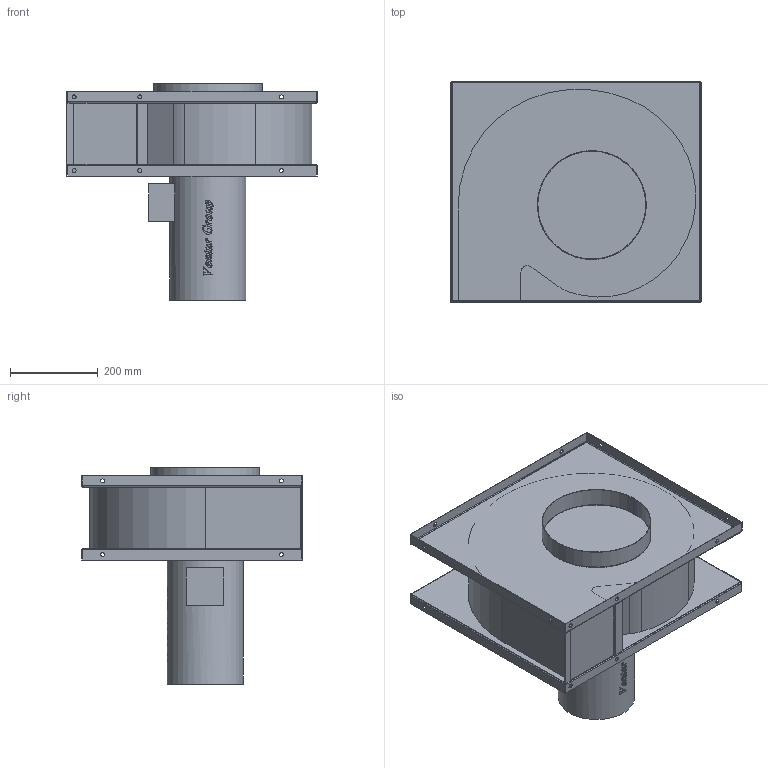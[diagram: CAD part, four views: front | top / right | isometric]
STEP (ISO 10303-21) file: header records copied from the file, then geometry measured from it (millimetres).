
FILE_DESCRIPTION(/* description */ (''),/* implementation_level */ '2;1');
FILE_NAME(/* name */ 'T:\BAZA\BAZA\Modele uproszczone\GMT\GMT_400_300T_RD90_42551840\GMT_400_300T_RD90_42551840.stp',/* time_stamp */ '2016-08-18T10:17:39+02:00',/* author */ ('tomaszm'),/* organization */ (''),/* preprocessor_version */ 'ST-DEVELOPER v16.5',/* originating_system */ 'Autodesk Inventor 2017',/* authorisation */ '');
FILE_SCHEMA (('AUTOMOTIVE_DESIGN { 1 0 10303 214 3 1 1 }'));
Length unit declared in the file: centimetre
Products named in the file (1): GMT-400-300
Bounding box: 571 x 503 x 493.5 mm (x, y, z)
Volume: 38751188.9 mm3; surface area: 1455715.2 mm2
Topology: 1 solids, 1 shells, 681 faces, 1930 edges, 1287 vertices
Faces by surface type: bspline 283, plane 276, cylinder 120, torus 2
Full cylindrical faces by diameter (mm): 9.2 x18, 173.603 x1
Entity records: 26729 total; most frequent: CARTESIAN_POINT 10503, ORIENTED_EDGE 3822, DIRECTION 2433, EDGE_CURVE 1911, VERTEX_POINT 1287, LINE 987, VECTOR 987, EDGE_LOOP 776
